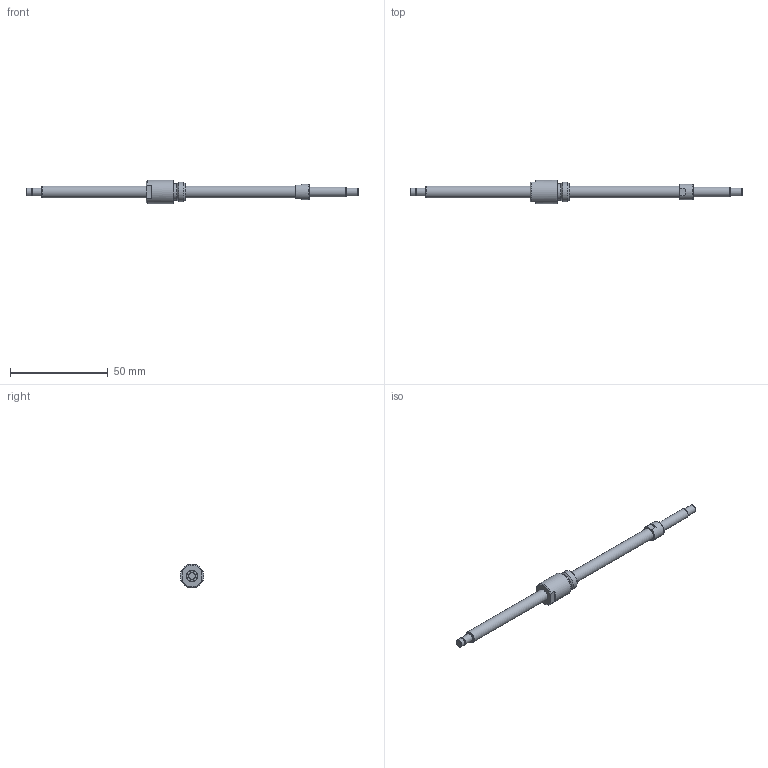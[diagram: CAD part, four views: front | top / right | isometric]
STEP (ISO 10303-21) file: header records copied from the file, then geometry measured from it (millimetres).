
FILE_DESCRIPTION(/* description */ ('STEP AP214'),/* implementation_level */ '2;1');
FILE_NAME(/* name */ 'NSG0601-127R170C5B0X(53.5)',/* time_stamp */ '2026-08-20T15:46:13+02:00',/* author */ ('License CC BY-ND 4.0'),/* organization */ ('CADENAS'),/* preprocessor_version */ 'ST-DEVELOPER v20',/* originating_system */ 'PARTsolutions',/* authorisation */ ' ');
FILE_SCHEMA (('AUTOMOTIVE_DESIGN {1 0 10303 214 3 1 1}'));
Length unit declared in the file: millimetre
Products named in the file (3): NSG0601-127R170C5B0X(53.5); NSG0601-127R170C3B_shaft; NSG0601_nut
Assembly tree (2 placements, depth 2):
  NSG0601-127R170C5B0X(53.5)
    NSG0601-127R170C3B_shaft
    NSG0601_nut
Bounding box: 170 x 12 x 12 mm (x, y, z)
Volume: 5964.2 mm3; surface area: 4444.2 mm2
Topology: 2 solids, 2 shells, 41 faces, 80 edges, 50 vertices
Faces by surface type: plane 19, cylinder 11, cone 10, torus 1
Full cylindrical faces by diameter (mm): 3.7 x1, 4 x3, 5 x1, 6 x2, 8 x1, 8.4 x1, 10 x1, 12 x1
Entity records: 1017 total; most frequent: DIRECTION 180, CARTESIAN_POINT 162, ORIENTED_EDGE 116, AXIS2_PLACEMENT_3D 82, EDGE_LOOP 70, FACE_BOUND 70, EDGE_CURVE 58, VERTEX_POINT 48
